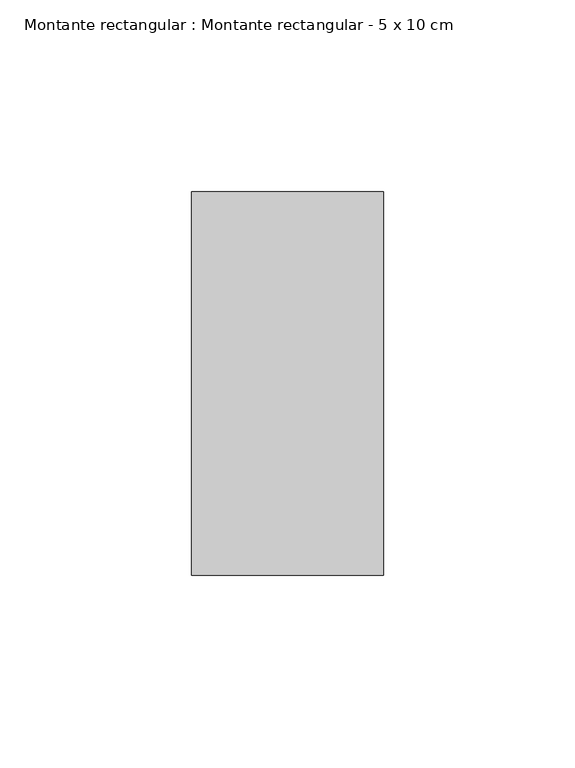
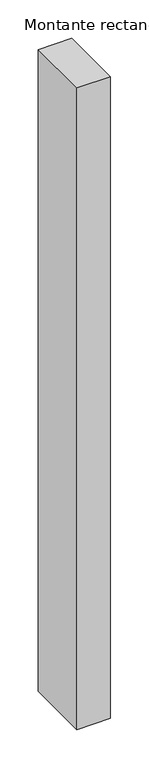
"""IFC4 building model written with IfcOpenShell, lengths in millimetres: member geometry, Montante rectangular : Montante rectangular - 5 x 10 cm."""

from ifc_helpers import new_model, si_unit, frame, origin, place, context, project, spatial, polyline, outline, extrude, source, transform, mapped, element, save


def montante_rectangular_montante_rectangular_5_x_10_cm_b9b5bca4(model_context):
    return source(origin(), model_context, "Body", "SweptSolid", [
        extrude(outline(polyline([(0.0, 50.0), (0.0, -50.0), (-50.0, -50.0), (-50.0, 50.0), (0.0, 50.0)])), frame((0.0, 0.0, -1018.2218064), z_axis=(0.0, 0.0, 1.0), x_axis=(1.0, 0.0, 0.0)), (0.0, 0.0, 1.0), 1018.2218064),
    ])


if __name__ == "__main__":
    model = new_model("IFC4")
    model_context = context("Model", 3, world=origin())
    ifc_project = project(units=[si_unit("LENGTHUNIT", "METRE", prefix="MILLI")], contexts=[model_context])
    site = spatial("IfcSite", under=ifc_project)
    building = spatial("IfcBuilding", under=site)
    placement = place(None, origin())
    montante_rectangular_montante_rectangular_5_x_10_cm_shape = montante_rectangular_montante_rectangular_5_x_10_cm_b9b5bca4(model_context)
    element("IfcMember", 1, ObjectType="Montante rectangular : Montante rectangular - 5 x 10 cm", at=placement, inside=building, context=model_context, shape_type="MappedRepresentation", body=[
        mapped(montante_rectangular_montante_rectangular_5_x_10_cm_shape, transform((0.0, 0.0, 0.0), x_axis=(1.0, 0.0, 0.0), y_axis=(0.0, 1.0, 0.0), z_axis=(0.0, 0.0, 1.0))),
    ])
    save(model, "model.ifc")
